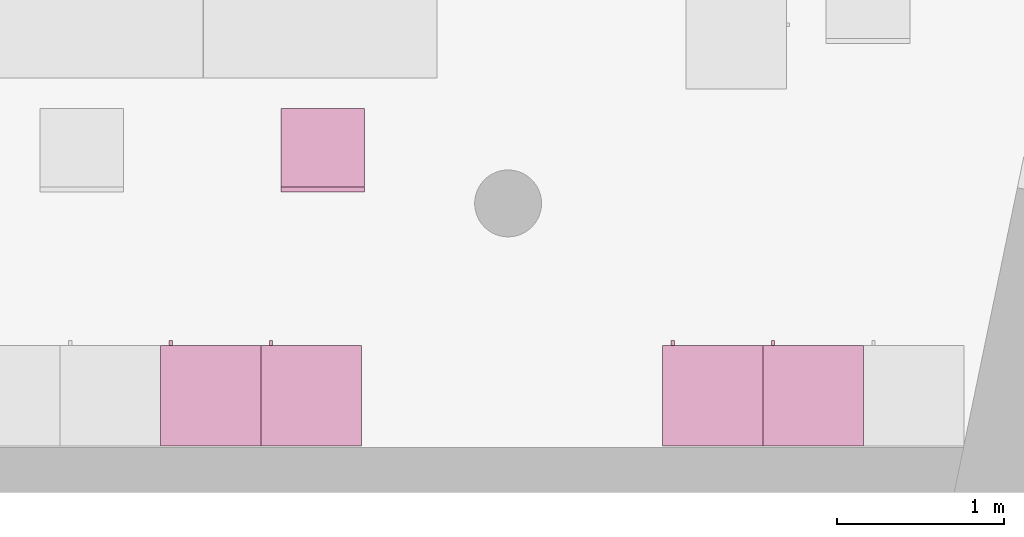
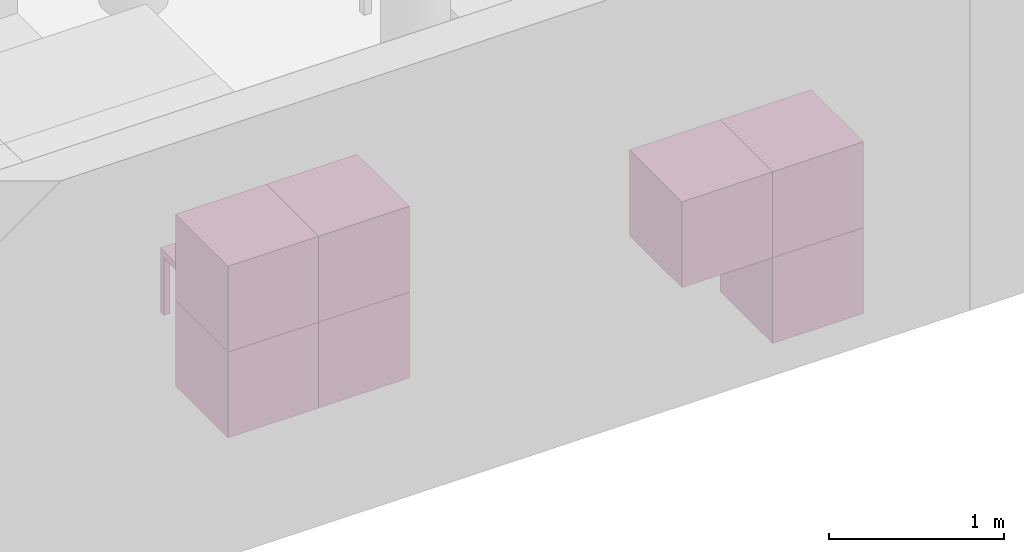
"""IFC4 building model written with IfcOpenShell, lengths in metres."""

from ifc_helpers import new_model, entity, si_unit, converted_unit, derived_unit, frame, origin, place, context, subcontext, project, spatial, faceted_brep, element, save


model = new_model("IFC4")

# Units and contexts
model_context = context("Model", 3, precision=1e-05, world=origin())
body_context = subcontext(model_context, "Body", "Model", "MODEL_VIEW")
ifc_project = project(units=[si_unit("LENGTHUNIT", "METRE"), si_unit("AREAUNIT", "SQUARE_METRE"), si_unit("VOLUMEUNIT", "CUBIC_METRE"), si_unit("MASSUNIT", "GRAM", prefix="KILO"), converted_unit("PLANEANGLEUNIT", "DEGREE", entity("IfcPlaneAngleMeasure", 0.0174532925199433), si_unit("PLANEANGLEUNIT", "RADIAN"), dimensions=[0, 0, 0, 0, 0, 0, 0]), derived_unit("THERMALTRANSMITTANCEUNIT", [(si_unit("POWERUNIT", "WATT"), 1), (si_unit("THERMODYNAMICTEMPERATUREUNIT", "KELVIN"), -1), (si_unit("LENGTHUNIT", "METRE"), -2)]), derived_unit("VOLUMETRICFLOWRATEUNIT", [(si_unit("LENGTHUNIT", "METRE"), 3), (converted_unit("TIMEUNIT", "hour", entity("IfcTimeMeasure", 3600.0), si_unit("TIMEUNIT", "SECOND"), dimensions=[0, 0, 1, 0, 0, 0, 0]), -1), (si_unit("LENGTHUNIT", "METRE"), -1)])], contexts=[model_context])

# Building, storeys
building_placement = place(None, origin())
building = spatial("IfcBuilding", under=ifc_project, at=building_placement, Name="HABITATGE PLURIFAMILIAR", CompositionType="ELEMENT")
storey_1_placement = place(building_placement, frame((0.0, 0.0, 15.28)))
storey_1 = spatial("IfcBuildingStorey", under=building, at=storey_1_placement, Name="PLANTA QUARTA", CompositionType="ELEMENT", Elevation=15.28)
storey_2_placement = place(storey_1_placement, frame((0.0, 0.0, 12.27)))
storey_2 = spatial("IfcBuildingStorey", under=storey_1, at=storey_2_placement, Name="NOU", CompositionType="PARTIAL")

# Furniture
furniture_1_placement = place(storey_2_placement, frame((418.91527037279, 13.1194598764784, -11.77)))
element("IfcFurniture", 1, at=furniture_1_placement, inside=storey_2, Name="Armai 60x60x60_P4", context=body_context, shape_type="Brep", body=[
    faceted_brep([(0.0, 0.6, 0.02), (0.0, 0.6, 0.0), (0.6, 0.6, 0.0), (0.6, 0.6, 0.02), (0.6, 0.0, 0.0), (0.6, 0.0, 0.02), (0.0, 0.0, 0.0), (0.0, 0.0, 0.02)], [[[0, 1, 2, 3]], [[3, 2, 4, 5]], [[5, 4, 6, 7]], [[7, 6, 1, 0]], [[0, 3, 5, 7]], [[1, 6, 4, 2]]], orient=[[False], [False], [False], [False], [False], [False]]),
    faceted_brep([(0.580000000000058, 0.0, 0.58), (0.580000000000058, 0.0200000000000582, 0.58), (0.580000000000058, 0.0200000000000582, 0.02), (0.580000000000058, 0.0, 0.02), (0.0200000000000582, 0.0200000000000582, 0.02), (0.0200000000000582, 0.0, 0.02), (0.0200000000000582, 0.0200000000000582, 0.58), (0.0200000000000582, 0.0, 0.58)], [[[0, 1, 2, 3]], [[3, 2, 4, 5]], [[5, 4, 6, 7]], [[7, 6, 1, 0]], [[0, 3, 5, 7]], [[1, 6, 4, 2]]], orient=[[False], [False], [False], [False], [False], [False]]),
    faceted_brep([(0.0200000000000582, 0.6, 0.58), (0.0, 0.6, 0.58), (0.0, 0.6, 0.02), (0.0200000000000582, 0.6, 0.02), (0.0, 0.0, 0.02), (0.0200000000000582, 0.0, 0.02), (0.0, 0.0, 0.58), (0.0200000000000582, 0.0, 0.58)], [[[0, 1, 2, 3]], [[3, 2, 4, 5]], [[5, 4, 6, 7]], [[7, 6, 1, 0]], [[0, 3, 5, 7]], [[1, 6, 4, 2]]], orient=[[False], [False], [False], [False], [False], [False]]),
    faceted_brep([(0.0, 0.58, 0.58), (0.0, 0.6, 0.58), (0.0, 0.6, 0.02), (0.0, 0.58, 0.02), (0.02, 0.6, 0.02), (0.02, 0.58, 0.02), (0.02, 0.6, 0.58), (0.02, 0.58, 0.58)], [[[0, 1, 2, 3]], [[3, 2, 4, 5]], [[5, 4, 6, 7]], [[7, 6, 1, 0]], [[0, 3, 5, 7]], [[1, 6, 4, 2]]], orient=[[False], [False], [False], [False], [False], [False]]),
    faceted_brep([(0.6, 0.6, 0.58), (0.58, 0.6, 0.58), (0.58, 0.6, 0.02), (0.6, 0.6, 0.02), (0.58, 0.0, 0.02), (0.6, 0.0, 0.02), (0.58, 0.0, 0.58), (0.6, 0.0, 0.58)], [[[0, 1, 2, 3]], [[3, 2, 4, 5]], [[5, 4, 6, 7]], [[7, 6, 1, 0]], [[0, 3, 5, 7]], [[1, 6, 4, 2]]], orient=[[False], [False], [False], [False], [False], [False]]),
    faceted_brep([(0.0, 0.600000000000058, 0.6), (0.0, 0.600000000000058, 0.58), (0.600000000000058, 0.600000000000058, 0.58), (0.600000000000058, 0.600000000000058, 0.6), (0.600000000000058, 0.0, 0.58), (0.600000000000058, 0.0, 0.6), (0.0, 0.0, 0.58), (0.0, 0.0, 0.6)], [[[0, 1, 2, 3]], [[3, 2, 4, 5]], [[5, 4, 6, 7]], [[7, 6, 1, 0]], [[0, 3, 5, 7]], [[1, 6, 4, 2]]], orient=[[False], [False], [False], [False], [False], [False]]),
    faceted_brep([(0.580000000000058, 0.580000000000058, 0.58), (0.580000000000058, 0.600000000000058, 0.58), (0.580000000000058, 0.600000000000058, 0.02), (0.580000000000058, 0.580000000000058, 0.02), (0.02, 0.600000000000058, 0.02), (0.02, 0.580000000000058, 0.02), (0.02, 0.600000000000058, 0.58), (0.02, 0.580000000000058, 0.58)], [[[0, 1, 2, 3]], [[3, 2, 4, 5]], [[5, 4, 6, 7]], [[7, 6, 1, 0]], [[0, 3, 5, 7]], [[1, 6, 4, 2]]], orient=[[False], [False], [False], [False], [False], [False]]),
    faceted_brep([(0.0700000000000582, 0.600000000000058, 0.358064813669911), (0.0700000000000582, 0.630000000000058, 0.358064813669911), (0.0700000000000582, 0.630000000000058, 0.258064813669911), (0.0700000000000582, 0.600000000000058, 0.258064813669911), (0.0500000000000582, 0.630000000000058, 0.258064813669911), (0.0500000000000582, 0.600000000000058, 0.258064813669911), (0.0500000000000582, 0.630000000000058, 0.358064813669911), (0.0500000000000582, 0.600000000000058, 0.358064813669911)], [[[0, 1, 2, 3]], [[3, 2, 4, 5]], [[5, 4, 6, 7]], [[7, 6, 1, 0]], [[0, 3, 5, 7]], [[1, 6, 4, 2]]], orient=[[False], [False], [False], [False], [False], [False]]),
])
furniture_2_placement = place(storey_2_placement, frame((419.51527037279, 13.1194598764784, -11.77)))
element("IfcFurniture", 2, at=furniture_2_placement, inside=storey_2, Name="Armai 60x60x60_P4", context=body_context, shape_type="Brep", body=[
    faceted_brep([(0.0, 0.6, 0.02), (0.0, 0.6, 0.0), (0.6, 0.6, 0.0), (0.6, 0.6, 0.02), (0.6, 0.0, 0.0), (0.6, 0.0, 0.02), (0.0, 0.0, 0.0), (0.0, 0.0, 0.02)], [[[0, 1, 2, 3]], [[3, 2, 4, 5]], [[5, 4, 6, 7]], [[7, 6, 1, 0]], [[0, 3, 5, 7]], [[1, 6, 4, 2]]], orient=[[False], [False], [False], [False], [False], [False]]),
    faceted_brep([(0.580000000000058, 0.0, 0.58), (0.580000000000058, 0.0200000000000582, 0.58), (0.580000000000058, 0.0200000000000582, 0.02), (0.580000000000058, 0.0, 0.02), (0.0200000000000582, 0.0200000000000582, 0.02), (0.0200000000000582, 0.0, 0.02), (0.0200000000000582, 0.0200000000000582, 0.58), (0.0200000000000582, 0.0, 0.58)], [[[0, 1, 2, 3]], [[3, 2, 4, 5]], [[5, 4, 6, 7]], [[7, 6, 1, 0]], [[0, 3, 5, 7]], [[1, 6, 4, 2]]], orient=[[False], [False], [False], [False], [False], [False]]),
    faceted_brep([(0.0200000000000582, 0.6, 0.58), (0.0, 0.6, 0.58), (0.0, 0.6, 0.02), (0.0200000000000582, 0.6, 0.02), (0.0, 0.0, 0.02), (0.0200000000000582, 0.0, 0.02), (0.0, 0.0, 0.58), (0.0200000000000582, 0.0, 0.58)], [[[0, 1, 2, 3]], [[3, 2, 4, 5]], [[5, 4, 6, 7]], [[7, 6, 1, 0]], [[0, 3, 5, 7]], [[1, 6, 4, 2]]], orient=[[False], [False], [False], [False], [False], [False]]),
    faceted_brep([(0.0, 0.58, 0.58), (0.0, 0.6, 0.58), (0.0, 0.6, 0.02), (0.0, 0.58, 0.02), (0.02, 0.6, 0.02), (0.02, 0.58, 0.02), (0.02, 0.6, 0.58), (0.02, 0.58, 0.58)], [[[0, 1, 2, 3]], [[3, 2, 4, 5]], [[5, 4, 6, 7]], [[7, 6, 1, 0]], [[0, 3, 5, 7]], [[1, 6, 4, 2]]], orient=[[False], [False], [False], [False], [False], [False]]),
    faceted_brep([(0.6, 0.6, 0.58), (0.58, 0.6, 0.58), (0.58, 0.6, 0.02), (0.6, 0.6, 0.02), (0.58, 0.0, 0.02), (0.6, 0.0, 0.02), (0.58, 0.0, 0.58), (0.6, 0.0, 0.58)], [[[0, 1, 2, 3]], [[3, 2, 4, 5]], [[5, 4, 6, 7]], [[7, 6, 1, 0]], [[0, 3, 5, 7]], [[1, 6, 4, 2]]], orient=[[False], [False], [False], [False], [False], [False]]),
    faceted_brep([(0.0, 0.600000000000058, 0.6), (0.0, 0.600000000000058, 0.58), (0.600000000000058, 0.600000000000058, 0.58), (0.600000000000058, 0.600000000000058, 0.6), (0.600000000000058, 0.0, 0.58), (0.600000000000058, 0.0, 0.6), (0.0, 0.0, 0.58), (0.0, 0.0, 0.6)], [[[0, 1, 2, 3]], [[3, 2, 4, 5]], [[5, 4, 6, 7]], [[7, 6, 1, 0]], [[0, 3, 5, 7]], [[1, 6, 4, 2]]], orient=[[False], [False], [False], [False], [False], [False]]),
    faceted_brep([(0.580000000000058, 0.580000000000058, 0.58), (0.580000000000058, 0.600000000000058, 0.58), (0.580000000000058, 0.600000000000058, 0.02), (0.580000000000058, 0.580000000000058, 0.02), (0.02, 0.600000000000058, 0.02), (0.02, 0.580000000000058, 0.02), (0.02, 0.600000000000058, 0.58), (0.02, 0.580000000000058, 0.58)], [[[0, 1, 2, 3]], [[3, 2, 4, 5]], [[5, 4, 6, 7]], [[7, 6, 1, 0]], [[0, 3, 5, 7]], [[1, 6, 4, 2]]], orient=[[False], [False], [False], [False], [False], [False]]),
    faceted_brep([(0.0700000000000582, 0.600000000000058, 0.358064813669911), (0.0700000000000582, 0.630000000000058, 0.358064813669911), (0.0700000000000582, 0.630000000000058, 0.258064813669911), (0.0700000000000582, 0.600000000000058, 0.258064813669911), (0.0500000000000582, 0.630000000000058, 0.258064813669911), (0.0500000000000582, 0.600000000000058, 0.258064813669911), (0.0500000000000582, 0.630000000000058, 0.358064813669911), (0.0500000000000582, 0.600000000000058, 0.358064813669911)], [[[0, 1, 2, 3]], [[3, 2, 4, 5]], [[5, 4, 6, 7]], [[7, 6, 1, 0]], [[0, 3, 5, 7]], [[1, 6, 4, 2]]], orient=[[False], [False], [False], [False], [False], [False]]),
])
furniture_3_placement = place(storey_2_placement, frame((418.91527037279, 13.1194598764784, -11.17)))
element("IfcFurniture", 3, at=furniture_3_placement, inside=storey_2, Name="Armai 60x60x60_P4", context=body_context, shape_type="Brep", body=[
    faceted_brep([(0.0, 0.6, 0.02), (0.0, 0.6, 0.0), (0.6, 0.6, 0.0), (0.6, 0.6, 0.02), (0.6, 0.0, 0.0), (0.6, 0.0, 0.02), (0.0, 0.0, 0.0), (0.0, 0.0, 0.02)], [[[0, 1, 2, 3]], [[3, 2, 4, 5]], [[5, 4, 6, 7]], [[7, 6, 1, 0]], [[0, 3, 5, 7]], [[1, 6, 4, 2]]], orient=[[False], [False], [False], [False], [False], [False]]),
    faceted_brep([(0.580000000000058, 0.0, 0.58), (0.580000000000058, 0.0200000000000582, 0.58), (0.580000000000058, 0.0200000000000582, 0.02), (0.580000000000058, 0.0, 0.02), (0.0200000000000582, 0.0200000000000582, 0.02), (0.0200000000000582, 0.0, 0.02), (0.0200000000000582, 0.0200000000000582, 0.58), (0.0200000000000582, 0.0, 0.58)], [[[0, 1, 2, 3]], [[3, 2, 4, 5]], [[5, 4, 6, 7]], [[7, 6, 1, 0]], [[0, 3, 5, 7]], [[1, 6, 4, 2]]], orient=[[False], [False], [False], [False], [False], [False]]),
    faceted_brep([(0.0200000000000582, 0.6, 0.58), (0.0, 0.6, 0.58), (0.0, 0.6, 0.02), (0.0200000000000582, 0.6, 0.02), (0.0, 0.0, 0.02), (0.0200000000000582, 0.0, 0.02), (0.0, 0.0, 0.58), (0.0200000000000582, 0.0, 0.58)], [[[0, 1, 2, 3]], [[3, 2, 4, 5]], [[5, 4, 6, 7]], [[7, 6, 1, 0]], [[0, 3, 5, 7]], [[1, 6, 4, 2]]], orient=[[False], [False], [False], [False], [False], [False]]),
    faceted_brep([(0.0, 0.58, 0.58), (0.0, 0.6, 0.58), (0.0, 0.6, 0.02), (0.0, 0.58, 0.02), (0.02, 0.6, 0.02), (0.02, 0.58, 0.02), (0.02, 0.6, 0.58), (0.02, 0.58, 0.58)], [[[0, 1, 2, 3]], [[3, 2, 4, 5]], [[5, 4, 6, 7]], [[7, 6, 1, 0]], [[0, 3, 5, 7]], [[1, 6, 4, 2]]], orient=[[False], [False], [False], [False], [False], [False]]),
    faceted_brep([(0.6, 0.6, 0.58), (0.58, 0.6, 0.58), (0.58, 0.6, 0.02), (0.6, 0.6, 0.02), (0.58, 0.0, 0.02), (0.6, 0.0, 0.02), (0.58, 0.0, 0.58), (0.6, 0.0, 0.58)], [[[0, 1, 2, 3]], [[3, 2, 4, 5]], [[5, 4, 6, 7]], [[7, 6, 1, 0]], [[0, 3, 5, 7]], [[1, 6, 4, 2]]], orient=[[False], [False], [False], [False], [False], [False]]),
    faceted_brep([(0.0, 0.600000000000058, 0.6), (0.0, 0.600000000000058, 0.58), (0.600000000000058, 0.600000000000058, 0.58), (0.600000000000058, 0.600000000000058, 0.6), (0.600000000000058, 0.0, 0.58), (0.600000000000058, 0.0, 0.6), (0.0, 0.0, 0.58), (0.0, 0.0, 0.6)], [[[0, 1, 2, 3]], [[3, 2, 4, 5]], [[5, 4, 6, 7]], [[7, 6, 1, 0]], [[0, 3, 5, 7]], [[1, 6, 4, 2]]], orient=[[False], [False], [False], [False], [False], [False]]),
    faceted_brep([(0.580000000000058, 0.580000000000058, 0.58), (0.580000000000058, 0.600000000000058, 0.58), (0.580000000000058, 0.600000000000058, 0.02), (0.580000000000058, 0.580000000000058, 0.02), (0.02, 0.600000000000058, 0.02), (0.02, 0.580000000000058, 0.02), (0.02, 0.600000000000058, 0.58), (0.02, 0.580000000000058, 0.58)], [[[0, 1, 2, 3]], [[3, 2, 4, 5]], [[5, 4, 6, 7]], [[7, 6, 1, 0]], [[0, 3, 5, 7]], [[1, 6, 4, 2]]], orient=[[False], [False], [False], [False], [False], [False]]),
    faceted_brep([(0.0700000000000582, 0.600000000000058, 0.358064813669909), (0.0700000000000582, 0.630000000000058, 0.358064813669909), (0.0700000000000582, 0.630000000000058, 0.258064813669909), (0.0700000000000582, 0.600000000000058, 0.258064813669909), (0.0500000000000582, 0.630000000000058, 0.258064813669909), (0.0500000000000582, 0.600000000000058, 0.258064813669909), (0.0500000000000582, 0.630000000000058, 0.358064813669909), (0.0500000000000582, 0.600000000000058, 0.358064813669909)], [[[0, 1, 2, 3]], [[3, 2, 4, 5]], [[5, 4, 6, 7]], [[7, 6, 1, 0]], [[0, 3, 5, 7]], [[1, 6, 4, 2]]], orient=[[False], [False], [False], [False], [False], [False]]),
])
furniture_4_placement = place(storey_2_placement, frame((419.51527037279, 13.1194598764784, -11.17)))
element("IfcFurniture", 4, at=furniture_4_placement, inside=storey_2, Name="Armai 60x60x60_P4", context=body_context, shape_type="Brep", body=[
    faceted_brep([(0.0, 0.6, 0.02), (0.0, 0.6, 0.0), (0.6, 0.6, 0.0), (0.6, 0.6, 0.02), (0.6, 0.0, 0.0), (0.6, 0.0, 0.02), (0.0, 0.0, 0.0), (0.0, 0.0, 0.02)], [[[0, 1, 2, 3]], [[3, 2, 4, 5]], [[5, 4, 6, 7]], [[7, 6, 1, 0]], [[0, 3, 5, 7]], [[1, 6, 4, 2]]], orient=[[False], [False], [False], [False], [False], [False]]),
    faceted_brep([(0.580000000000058, 0.0, 0.58), (0.580000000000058, 0.0200000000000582, 0.58), (0.580000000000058, 0.0200000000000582, 0.02), (0.580000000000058, 0.0, 0.02), (0.0200000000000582, 0.0200000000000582, 0.02), (0.0200000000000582, 0.0, 0.02), (0.0200000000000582, 0.0200000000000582, 0.58), (0.0200000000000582, 0.0, 0.58)], [[[0, 1, 2, 3]], [[3, 2, 4, 5]], [[5, 4, 6, 7]], [[7, 6, 1, 0]], [[0, 3, 5, 7]], [[1, 6, 4, 2]]], orient=[[False], [False], [False], [False], [False], [False]]),
    faceted_brep([(0.0200000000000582, 0.6, 0.58), (0.0, 0.6, 0.58), (0.0, 0.6, 0.02), (0.0200000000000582, 0.6, 0.02), (0.0, 0.0, 0.02), (0.0200000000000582, 0.0, 0.02), (0.0, 0.0, 0.58), (0.0200000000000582, 0.0, 0.58)], [[[0, 1, 2, 3]], [[3, 2, 4, 5]], [[5, 4, 6, 7]], [[7, 6, 1, 0]], [[0, 3, 5, 7]], [[1, 6, 4, 2]]], orient=[[False], [False], [False], [False], [False], [False]]),
    faceted_brep([(0.0, 0.58, 0.58), (0.0, 0.6, 0.58), (0.0, 0.6, 0.02), (0.0, 0.58, 0.02), (0.02, 0.6, 0.02), (0.02, 0.58, 0.02), (0.02, 0.6, 0.58), (0.02, 0.58, 0.58)], [[[0, 1, 2, 3]], [[3, 2, 4, 5]], [[5, 4, 6, 7]], [[7, 6, 1, 0]], [[0, 3, 5, 7]], [[1, 6, 4, 2]]], orient=[[False], [False], [False], [False], [False], [False]]),
    faceted_brep([(0.6, 0.6, 0.58), (0.58, 0.6, 0.58), (0.58, 0.6, 0.02), (0.6, 0.6, 0.02), (0.58, 0.0, 0.02), (0.6, 0.0, 0.02), (0.58, 0.0, 0.58), (0.6, 0.0, 0.58)], [[[0, 1, 2, 3]], [[3, 2, 4, 5]], [[5, 4, 6, 7]], [[7, 6, 1, 0]], [[0, 3, 5, 7]], [[1, 6, 4, 2]]], orient=[[False], [False], [False], [False], [False], [False]]),
    faceted_brep([(0.0, 0.600000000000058, 0.6), (0.0, 0.600000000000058, 0.58), (0.600000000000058, 0.600000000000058, 0.58), (0.600000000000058, 0.600000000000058, 0.6), (0.600000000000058, 0.0, 0.58), (0.600000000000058, 0.0, 0.6), (0.0, 0.0, 0.58), (0.0, 0.0, 0.6)], [[[0, 1, 2, 3]], [[3, 2, 4, 5]], [[5, 4, 6, 7]], [[7, 6, 1, 0]], [[0, 3, 5, 7]], [[1, 6, 4, 2]]], orient=[[False], [False], [False], [False], [False], [False]]),
    faceted_brep([(0.580000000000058, 0.580000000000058, 0.58), (0.580000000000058, 0.600000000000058, 0.58), (0.580000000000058, 0.600000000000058, 0.02), (0.580000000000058, 0.580000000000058, 0.02), (0.02, 0.600000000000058, 0.02), (0.02, 0.580000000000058, 0.02), (0.02, 0.600000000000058, 0.58), (0.02, 0.580000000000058, 0.58)], [[[0, 1, 2, 3]], [[3, 2, 4, 5]], [[5, 4, 6, 7]], [[7, 6, 1, 0]], [[0, 3, 5, 7]], [[1, 6, 4, 2]]], orient=[[False], [False], [False], [False], [False], [False]]),
    faceted_brep([(0.0700000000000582, 0.600000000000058, 0.358064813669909), (0.0700000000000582, 0.630000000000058, 0.358064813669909), (0.0700000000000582, 0.630000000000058, 0.258064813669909), (0.0700000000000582, 0.600000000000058, 0.258064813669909), (0.0500000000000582, 0.630000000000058, 0.258064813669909), (0.0500000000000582, 0.600000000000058, 0.258064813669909), (0.0500000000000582, 0.630000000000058, 0.358064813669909), (0.0500000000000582, 0.600000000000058, 0.358064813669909)], [[[0, 1, 2, 3]], [[3, 2, 4, 5]], [[5, 4, 6, 7]], [[7, 6, 1, 0]], [[0, 3, 5, 7]], [[1, 6, 4, 2]]], orient=[[False], [False], [False], [False], [False], [False]]),
])
furniture_5_placement = place(storey_2_placement, frame((422.51527037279, 13.1194598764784, -12.37)))
element("IfcFurniture", 5, at=furniture_5_placement, inside=storey_2, Name="Armai 60x60x60_P4", context=body_context, shape_type="Brep", body=[
    faceted_brep([(0.0, 0.6, 0.02), (0.0, 0.6, 0.0), (0.6, 0.6, 0.0), (0.6, 0.6, 0.02), (0.6, 0.0, 0.0), (0.6, 0.0, 0.02), (0.0, 0.0, 0.0), (0.0, 0.0, 0.02)], [[[0, 1, 2, 3]], [[3, 2, 4, 5]], [[5, 4, 6, 7]], [[7, 6, 1, 0]], [[0, 3, 5, 7]], [[1, 6, 4, 2]]], orient=[[False], [False], [False], [False], [False], [False]]),
    faceted_brep([(0.580000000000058, 0.0, 0.58), (0.580000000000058, 0.0200000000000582, 0.58), (0.580000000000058, 0.0200000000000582, 0.02), (0.580000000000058, 0.0, 0.02), (0.0200000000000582, 0.0200000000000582, 0.02), (0.0200000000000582, 0.0, 0.02), (0.0200000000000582, 0.0200000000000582, 0.58), (0.0200000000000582, 0.0, 0.58)], [[[0, 1, 2, 3]], [[3, 2, 4, 5]], [[5, 4, 6, 7]], [[7, 6, 1, 0]], [[0, 3, 5, 7]], [[1, 6, 4, 2]]], orient=[[False], [False], [False], [False], [False], [False]]),
    faceted_brep([(0.0200000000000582, 0.6, 0.58), (0.0, 0.6, 0.58), (0.0, 0.6, 0.02), (0.0200000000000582, 0.6, 0.02), (0.0, 0.0, 0.02), (0.0200000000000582, 0.0, 0.02), (0.0, 0.0, 0.58), (0.0200000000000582, 0.0, 0.58)], [[[0, 1, 2, 3]], [[3, 2, 4, 5]], [[5, 4, 6, 7]], [[7, 6, 1, 0]], [[0, 3, 5, 7]], [[1, 6, 4, 2]]], orient=[[False], [False], [False], [False], [False], [False]]),
    faceted_brep([(0.0, 0.58, 0.58), (0.0, 0.6, 0.58), (0.0, 0.6, 0.02), (0.0, 0.58, 0.02), (0.02, 0.6, 0.02), (0.02, 0.58, 0.02), (0.02, 0.6, 0.58), (0.02, 0.58, 0.58)], [[[0, 1, 2, 3]], [[3, 2, 4, 5]], [[5, 4, 6, 7]], [[7, 6, 1, 0]], [[0, 3, 5, 7]], [[1, 6, 4, 2]]], orient=[[False], [False], [False], [False], [False], [False]]),
    faceted_brep([(0.6, 0.6, 0.58), (0.58, 0.6, 0.58), (0.58, 0.6, 0.02), (0.6, 0.6, 0.02), (0.58, 0.0, 0.02), (0.6, 0.0, 0.02), (0.58, 0.0, 0.58), (0.6, 0.0, 0.58)], [[[0, 1, 2, 3]], [[3, 2, 4, 5]], [[5, 4, 6, 7]], [[7, 6, 1, 0]], [[0, 3, 5, 7]], [[1, 6, 4, 2]]], orient=[[False], [False], [False], [False], [False], [False]]),
    faceted_brep([(0.0, 0.600000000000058, 0.6), (0.0, 0.600000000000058, 0.58), (0.600000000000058, 0.600000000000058, 0.58), (0.600000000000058, 0.600000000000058, 0.6), (0.600000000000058, 0.0, 0.58), (0.600000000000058, 0.0, 0.6), (0.0, 0.0, 0.58), (0.0, 0.0, 0.6)], [[[0, 1, 2, 3]], [[3, 2, 4, 5]], [[5, 4, 6, 7]], [[7, 6, 1, 0]], [[0, 3, 5, 7]], [[1, 6, 4, 2]]], orient=[[False], [False], [False], [False], [False], [False]]),
    faceted_brep([(0.580000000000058, 0.580000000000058, 0.58), (0.580000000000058, 0.600000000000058, 0.58), (0.580000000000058, 0.600000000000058, 0.02), (0.580000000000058, 0.580000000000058, 0.02), (0.02, 0.600000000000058, 0.02), (0.02, 0.580000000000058, 0.02), (0.02, 0.600000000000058, 0.58), (0.02, 0.580000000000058, 0.58)], [[[0, 1, 2, 3]], [[3, 2, 4, 5]], [[5, 4, 6, 7]], [[7, 6, 1, 0]], [[0, 3, 5, 7]], [[1, 6, 4, 2]]], orient=[[False], [False], [False], [False], [False], [False]]),
    faceted_brep([(0.0700000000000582, 0.600000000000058, 0.358064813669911), (0.0700000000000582, 0.630000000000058, 0.358064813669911), (0.0700000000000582, 0.630000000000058, 0.258064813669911), (0.0700000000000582, 0.600000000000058, 0.258064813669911), (0.0500000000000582, 0.630000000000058, 0.258064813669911), (0.0500000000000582, 0.600000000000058, 0.258064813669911), (0.0500000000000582, 0.630000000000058, 0.358064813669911), (0.0500000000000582, 0.600000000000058, 0.358064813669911)], [[[0, 1, 2, 3]], [[3, 2, 4, 5]], [[5, 4, 6, 7]], [[7, 6, 1, 0]], [[0, 3, 5, 7]], [[1, 6, 4, 2]]], orient=[[False], [False], [False], [False], [False], [False]]),
])
furniture_6_placement = place(storey_2_placement, frame((421.91527037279, 13.1194598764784, -11.77)))
element("IfcFurniture", 6, at=furniture_6_placement, inside=storey_2, Name="Armai 60x60x60_P4", context=body_context, shape_type="Brep", body=[
    faceted_brep([(0.0, 0.6, 0.02), (0.0, 0.6, 0.0), (0.6, 0.6, 0.0), (0.6, 0.6, 0.02), (0.6, 0.0, 0.0), (0.6, 0.0, 0.02), (0.0, 0.0, 0.0), (0.0, 0.0, 0.02)], [[[0, 1, 2, 3]], [[3, 2, 4, 5]], [[5, 4, 6, 7]], [[7, 6, 1, 0]], [[0, 3, 5, 7]], [[1, 6, 4, 2]]], orient=[[False], [False], [False], [False], [False], [False]]),
    faceted_brep([(0.580000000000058, 0.0, 0.58), (0.580000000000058, 0.0200000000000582, 0.58), (0.580000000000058, 0.0200000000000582, 0.02), (0.580000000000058, 0.0, 0.02), (0.0200000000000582, 0.0200000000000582, 0.02), (0.0200000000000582, 0.0, 0.02), (0.0200000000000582, 0.0200000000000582, 0.58), (0.0200000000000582, 0.0, 0.58)], [[[0, 1, 2, 3]], [[3, 2, 4, 5]], [[5, 4, 6, 7]], [[7, 6, 1, 0]], [[0, 3, 5, 7]], [[1, 6, 4, 2]]], orient=[[False], [False], [False], [False], [False], [False]]),
    faceted_brep([(0.0200000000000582, 0.6, 0.58), (0.0, 0.6, 0.58), (0.0, 0.6, 0.02), (0.0200000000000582, 0.6, 0.02), (0.0, 0.0, 0.02), (0.0200000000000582, 0.0, 0.02), (0.0, 0.0, 0.58), (0.0200000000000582, 0.0, 0.58)], [[[0, 1, 2, 3]], [[3, 2, 4, 5]], [[5, 4, 6, 7]], [[7, 6, 1, 0]], [[0, 3, 5, 7]], [[1, 6, 4, 2]]], orient=[[False], [False], [False], [False], [False], [False]]),
    faceted_brep([(0.0, 0.58, 0.58), (0.0, 0.6, 0.58), (0.0, 0.6, 0.02), (0.0, 0.58, 0.02), (0.02, 0.6, 0.02), (0.02, 0.58, 0.02), (0.02, 0.6, 0.58), (0.02, 0.58, 0.58)], [[[0, 1, 2, 3]], [[3, 2, 4, 5]], [[5, 4, 6, 7]], [[7, 6, 1, 0]], [[0, 3, 5, 7]], [[1, 6, 4, 2]]], orient=[[False], [False], [False], [False], [False], [False]]),
    faceted_brep([(0.6, 0.6, 0.58), (0.58, 0.6, 0.58), (0.58, 0.6, 0.02), (0.6, 0.6, 0.02), (0.58, 0.0, 0.02), (0.6, 0.0, 0.02), (0.58, 0.0, 0.58), (0.6, 0.0, 0.58)], [[[0, 1, 2, 3]], [[3, 2, 4, 5]], [[5, 4, 6, 7]], [[7, 6, 1, 0]], [[0, 3, 5, 7]], [[1, 6, 4, 2]]], orient=[[False], [False], [False], [False], [False], [False]]),
    faceted_brep([(0.0, 0.600000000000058, 0.6), (0.0, 0.600000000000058, 0.58), (0.600000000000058, 0.600000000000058, 0.58), (0.600000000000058, 0.600000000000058, 0.6), (0.600000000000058, 0.0, 0.58), (0.600000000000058, 0.0, 0.6), (0.0, 0.0, 0.58), (0.0, 0.0, 0.6)], [[[0, 1, 2, 3]], [[3, 2, 4, 5]], [[5, 4, 6, 7]], [[7, 6, 1, 0]], [[0, 3, 5, 7]], [[1, 6, 4, 2]]], orient=[[False], [False], [False], [False], [False], [False]]),
    faceted_brep([(0.580000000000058, 0.580000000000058, 0.58), (0.580000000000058, 0.600000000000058, 0.58), (0.580000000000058, 0.600000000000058, 0.02), (0.580000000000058, 0.580000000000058, 0.02), (0.02, 0.600000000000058, 0.02), (0.02, 0.580000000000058, 0.02), (0.02, 0.600000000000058, 0.58), (0.02, 0.580000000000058, 0.58)], [[[0, 1, 2, 3]], [[3, 2, 4, 5]], [[5, 4, 6, 7]], [[7, 6, 1, 0]], [[0, 3, 5, 7]], [[1, 6, 4, 2]]], orient=[[False], [False], [False], [False], [False], [False]]),
    faceted_brep([(0.0700000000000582, 0.600000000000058, 0.358064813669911), (0.0700000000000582, 0.630000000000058, 0.358064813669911), (0.0700000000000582, 0.630000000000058, 0.258064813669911), (0.0700000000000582, 0.600000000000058, 0.258064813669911), (0.0500000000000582, 0.630000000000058, 0.258064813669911), (0.0500000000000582, 0.600000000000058, 0.258064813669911), (0.0500000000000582, 0.630000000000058, 0.358064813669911), (0.0500000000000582, 0.600000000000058, 0.358064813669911)], [[[0, 1, 2, 3]], [[3, 2, 4, 5]], [[5, 4, 6, 7]], [[7, 6, 1, 0]], [[0, 3, 5, 7]], [[1, 6, 4, 2]]], orient=[[False], [False], [False], [False], [False], [False]]),
])
furniture_7_placement = place(storey_2_placement, frame((422.51527037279, 13.1194598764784, -11.77)))
element("IfcFurniture", 7, at=furniture_7_placement, inside=storey_2, Name="Armai 60x60x60_P4", context=body_context, shape_type="Brep", body=[
    faceted_brep([(0.0, 0.6, 0.02), (0.0, 0.6, 0.0), (0.6, 0.6, 0.0), (0.6, 0.6, 0.02), (0.6, 0.0, 0.0), (0.6, 0.0, 0.02), (0.0, 0.0, 0.0), (0.0, 0.0, 0.02)], [[[0, 1, 2, 3]], [[3, 2, 4, 5]], [[5, 4, 6, 7]], [[7, 6, 1, 0]], [[0, 3, 5, 7]], [[1, 6, 4, 2]]], orient=[[False], [False], [False], [False], [False], [False]]),
    faceted_brep([(0.580000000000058, 0.0, 0.58), (0.580000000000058, 0.0200000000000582, 0.58), (0.580000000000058, 0.0200000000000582, 0.02), (0.580000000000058, 0.0, 0.02), (0.0200000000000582, 0.0200000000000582, 0.02), (0.0200000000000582, 0.0, 0.02), (0.0200000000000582, 0.0200000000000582, 0.58), (0.0200000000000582, 0.0, 0.58)], [[[0, 1, 2, 3]], [[3, 2, 4, 5]], [[5, 4, 6, 7]], [[7, 6, 1, 0]], [[0, 3, 5, 7]], [[1, 6, 4, 2]]], orient=[[False], [False], [False], [False], [False], [False]]),
    faceted_brep([(0.0200000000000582, 0.6, 0.58), (0.0, 0.6, 0.58), (0.0, 0.6, 0.02), (0.0200000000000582, 0.6, 0.02), (0.0, 0.0, 0.02), (0.0200000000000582, 0.0, 0.02), (0.0, 0.0, 0.58), (0.0200000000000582, 0.0, 0.58)], [[[0, 1, 2, 3]], [[3, 2, 4, 5]], [[5, 4, 6, 7]], [[7, 6, 1, 0]], [[0, 3, 5, 7]], [[1, 6, 4, 2]]], orient=[[False], [False], [False], [False], [False], [False]]),
    faceted_brep([(0.0, 0.58, 0.58), (0.0, 0.6, 0.58), (0.0, 0.6, 0.02), (0.0, 0.58, 0.02), (0.02, 0.6, 0.02), (0.02, 0.58, 0.02), (0.02, 0.6, 0.58), (0.02, 0.58, 0.58)], [[[0, 1, 2, 3]], [[3, 2, 4, 5]], [[5, 4, 6, 7]], [[7, 6, 1, 0]], [[0, 3, 5, 7]], [[1, 6, 4, 2]]], orient=[[False], [False], [False], [False], [False], [False]]),
    faceted_brep([(0.6, 0.6, 0.58), (0.58, 0.6, 0.58), (0.58, 0.6, 0.02), (0.6, 0.6, 0.02), (0.58, 0.0, 0.02), (0.6, 0.0, 0.02), (0.58, 0.0, 0.58), (0.6, 0.0, 0.58)], [[[0, 1, 2, 3]], [[3, 2, 4, 5]], [[5, 4, 6, 7]], [[7, 6, 1, 0]], [[0, 3, 5, 7]], [[1, 6, 4, 2]]], orient=[[False], [False], [False], [False], [False], [False]]),
    faceted_brep([(0.0, 0.600000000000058, 0.6), (0.0, 0.600000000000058, 0.58), (0.600000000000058, 0.600000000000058, 0.58), (0.600000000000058, 0.600000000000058, 0.6), (0.600000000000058, 0.0, 0.58), (0.600000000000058, 0.0, 0.6), (0.0, 0.0, 0.58), (0.0, 0.0, 0.6)], [[[0, 1, 2, 3]], [[3, 2, 4, 5]], [[5, 4, 6, 7]], [[7, 6, 1, 0]], [[0, 3, 5, 7]], [[1, 6, 4, 2]]], orient=[[False], [False], [False], [False], [False], [False]]),
    faceted_brep([(0.580000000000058, 0.580000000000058, 0.58), (0.580000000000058, 0.600000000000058, 0.58), (0.580000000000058, 0.600000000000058, 0.02), (0.580000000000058, 0.580000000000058, 0.02), (0.02, 0.600000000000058, 0.02), (0.02, 0.580000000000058, 0.02), (0.02, 0.600000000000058, 0.58), (0.02, 0.580000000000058, 0.58)], [[[0, 1, 2, 3]], [[3, 2, 4, 5]], [[5, 4, 6, 7]], [[7, 6, 1, 0]], [[0, 3, 5, 7]], [[1, 6, 4, 2]]], orient=[[False], [False], [False], [False], [False], [False]]),
    faceted_brep([(0.0700000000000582, 0.600000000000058, 0.358064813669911), (0.0700000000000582, 0.630000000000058, 0.358064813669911), (0.0700000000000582, 0.630000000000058, 0.258064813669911), (0.0700000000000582, 0.600000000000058, 0.258064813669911), (0.0500000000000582, 0.630000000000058, 0.258064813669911), (0.0500000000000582, 0.600000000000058, 0.258064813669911), (0.0500000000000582, 0.630000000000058, 0.358064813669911), (0.0500000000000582, 0.600000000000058, 0.358064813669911)], [[[0, 1, 2, 3]], [[3, 2, 4, 5]], [[5, 4, 6, 7]], [[7, 6, 1, 0]], [[0, 3, 5, 7]], [[1, 6, 4, 2]]], orient=[[False], [False], [False], [False], [False], [False]]),
])
furniture_8_placement = place(storey_2_placement, frame((419.635236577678, 14.6372469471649, -12.3653305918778)))
element("IfcFurniture", 8, at=furniture_8_placement, inside=storey_2, Name="Cadira d'Oficina_P4", context=body_context, shape_type="Brep", body=[
    faceted_brep([(0.5, 0.5, 0.399999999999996), (0.0, 0.500000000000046, 0.399999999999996), (0.0, 0.0, 0.399999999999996), (0.5, 0.0, 0.399999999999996), (0.5, 0.0, 0.449999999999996), (0.0, 0.0, 0.449999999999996), (0.0, 0.500000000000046, 0.449999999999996), (0.5, 0.5, 0.449999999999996)], [[[0, 1, 2, 3]], [[4, 5, 6, 7]], [[3, 4, 7, 0]], [[2, 5, 4, 3]], [[1, 6, 5, 2]], [[0, 7, 6, 1]]], orient=[[False], [False], [False], [False], [False], [False]]),
    faceted_brep([(0.0, 0.0400000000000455, 0.0), (0.0, 0.0, 0.0), (0.04, 0.0, 0.0), (0.04, 0.0400000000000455, 0.0), (0.04, 0.0400000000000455, 0.4), (0.04, 0.0, 0.4), (0.0, 0.0, 0.4), (0.0, 0.0400000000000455, 0.4)], [[[0, 1, 2, 3]], [[4, 5, 6, 7]], [[3, 4, 7, 0]], [[2, 5, 4, 3]], [[1, 6, 5, 2]], [[0, 7, 6, 1]]], orient=[[False], [False], [False], [False], [False], [False]]),
    faceted_brep([(0.0, 0.500000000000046, 0.0), (0.0, 0.460000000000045, 0.0), (0.04, 0.460000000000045, 0.0), (0.04, 0.500000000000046, 0.0), (0.04, 0.500000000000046, 0.4), (0.04, 0.460000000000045, 0.4), (0.0, 0.460000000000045, 0.4), (0.0, 0.500000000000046, 0.4)], [[[0, 1, 2, 3]], [[4, 5, 6, 7]], [[3, 4, 7, 0]], [[2, 5, 4, 3]], [[1, 6, 5, 2]], [[0, 7, 6, 1]]], orient=[[False], [False], [False], [False], [False], [False]]),
    faceted_brep([(0.46, 0.04, 0.0), (0.46, 0.0, 0.0), (0.5, 0.0, 0.0), (0.5, 0.04, 0.0), (0.5, 0.04, 0.4), (0.5, 0.0, 0.4), (0.46, 0.0, 0.4), (0.46, 0.04, 0.4)], [[[0, 1, 2, 3]], [[4, 5, 6, 7]], [[3, 4, 7, 0]], [[2, 5, 4, 3]], [[1, 6, 5, 2]], [[0, 7, 6, 1]]], orient=[[False], [False], [False], [False], [False], [False]]),
    faceted_brep([(0.46, 0.5, 0.0), (0.46, 0.46, 0.0), (0.5, 0.46, 0.0), (0.5, 0.5, 0.0), (0.5, 0.5, 0.4), (0.5, 0.46, 0.4), (0.46, 0.46, 0.4), (0.46, 0.5, 0.4)], [[[0, 1, 2, 3]], [[4, 5, 6, 7]], [[3, 4, 7, 0]], [[2, 5, 4, 3]], [[1, 6, 5, 2]], [[0, 7, 6, 1]]], orient=[[False], [False], [False], [False], [False], [False]]),
    faceted_brep([(0.0, 0.0300000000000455, 0.45), (0.0, 0.0, 0.45), (0.5, 0.0, 0.45), (0.5, 0.03, 0.45), (0.5, 0.03, 0.9), (0.5, 0.0, 0.9), (0.0, 0.0, 0.9), (0.0, 0.0300000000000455, 0.9)], [[[0, 1, 2, 3]], [[4, 5, 6, 7]], [[3, 4, 7, 0]], [[2, 5, 4, 3]], [[1, 6, 5, 2]], [[0, 7, 6, 1]]], orient=[[False], [False], [False], [False], [False], [False]]),
])

save(model, "model.ifc")
